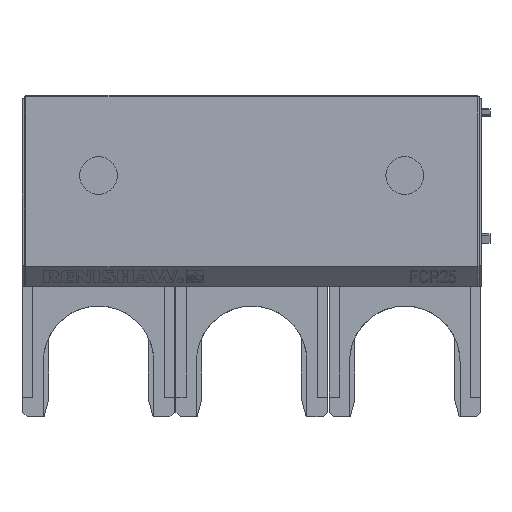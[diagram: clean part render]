
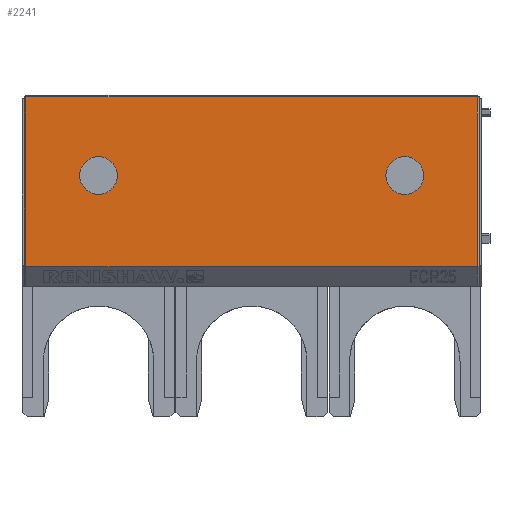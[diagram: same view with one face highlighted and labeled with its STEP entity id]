
A CAD part, top view. The second image highlights one B-rep face of the part: STEP entity #2241.
In plain terms, the highlighted planar face has unit normal (0, 0, 1).
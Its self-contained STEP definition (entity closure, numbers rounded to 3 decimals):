
#1785=FACE_BOUND('',#3024,.T.);
#1786=FACE_BOUND('',#3025,.T.);
#1787=FACE_BOUND('',#3026,.T.);
#1980=CIRCLE('',#7626,4.35);
#1981=CIRCLE('',#7628,4.35);
#2241=ADVANCED_FACE('',(#1785,#1786,#1787),#2465,.T.);
#2465=PLANE('',#7634);
#3024=EDGE_LOOP('',(#4611));
#3025=EDGE_LOOP('',(#4612));
#3026=EDGE_LOOP('',(#4613,#4614,#4615,#4616));
#4611=ORIENTED_EDGE('',*,*,#6007,.F.);
#4612=ORIENTED_EDGE('',*,*,#6008,.F.);
#4613=ORIENTED_EDGE('',*,*,#6009,.T.);
#4614=ORIENTED_EDGE('',*,*,#6011,.T.);
#4615=ORIENTED_EDGE('',*,*,#6013,.T.);
#4616=ORIENTED_EDGE('',*,*,#6014,.T.);
#5208=VERTEX_POINT('',#11292);
#5215=VERTEX_POINT('',#11316);
#5216=VERTEX_POINT('',#11320);
#5217=VERTEX_POINT('',#11323);
#5218=VERTEX_POINT('',#11328);
#5219=VERTEX_POINT('',#11332);
#6007=EDGE_CURVE('',#5216,#5216,#1980,.T.);
#6008=EDGE_CURVE('',#5217,#5217,#1981,.T.);
#6009=EDGE_CURVE('',#5215,#5208,#6630,.T.);
#6011=EDGE_CURVE('',#5208,#5218,#6632,.T.);
#6013=EDGE_CURVE('',#5218,#5219,#6634,.T.);
#6014=EDGE_CURVE('',#5219,#5215,#6635,.T.);
#6630=LINE('',#11325,#7251);
#6632=LINE('',#11329,#7253);
#6634=LINE('',#11333,#7255);
#6635=LINE('',#11335,#7256);
#7251=VECTOR('',#8996,1.);
#7253=VECTOR('',#9000,1.);
#7255=VECTOR('',#9004,1.);
#7256=VECTOR('',#9007,1.);
#7626=AXIS2_PLACEMENT_3D('',#11319,#8988,#8989);
#7628=AXIS2_PLACEMENT_3D('',#11322,#8992,#8993);
#7634=AXIS2_PLACEMENT_3D('',#11337,#9010,#9011);
#8988=DIRECTION('',(0.,0.,1.));
#8989=DIRECTION('',(0.,-1.,0.));
#8992=DIRECTION('',(0.,0.,1.));
#8993=DIRECTION('',(0.,-1.,0.));
#8996=DIRECTION('',(1.,0.,0.));
#9000=DIRECTION('',(0.,1.,0.));
#9004=DIRECTION('',(-1.,0.,0.));
#9007=DIRECTION('',(0.,-1.,0.));
#9010=DIRECTION('',(0.,0.,1.));
#9011=DIRECTION('',(0.,-1.,0.));
#11292=CARTESIAN_POINT('',(87.225,21.75,18.21));
#11316=CARTESIAN_POINT('',(-16.725,21.75,18.21));
#11319=CARTESIAN_POINT('',(70.5,42.75,18.21));
#11320=CARTESIAN_POINT('',(70.5,38.4,18.21));
#11322=CARTESIAN_POINT('',(0.,42.75,18.21));
#11323=CARTESIAN_POINT('',(0.,38.4,18.21));
#11325=CARTESIAN_POINT('',(35.25,21.75,18.21));
#11328=CARTESIAN_POINT('',(87.225,60.85,18.21));
#11329=CARTESIAN_POINT('',(87.225,60.85,18.21));
#11332=CARTESIAN_POINT('',(-16.725,60.85,18.21));
#11333=CARTESIAN_POINT('',(35.25,60.85,18.21));
#11335=CARTESIAN_POINT('',(-16.725,21.75,18.21));
#11337=CARTESIAN_POINT('',(35.25,39.25,18.21));
